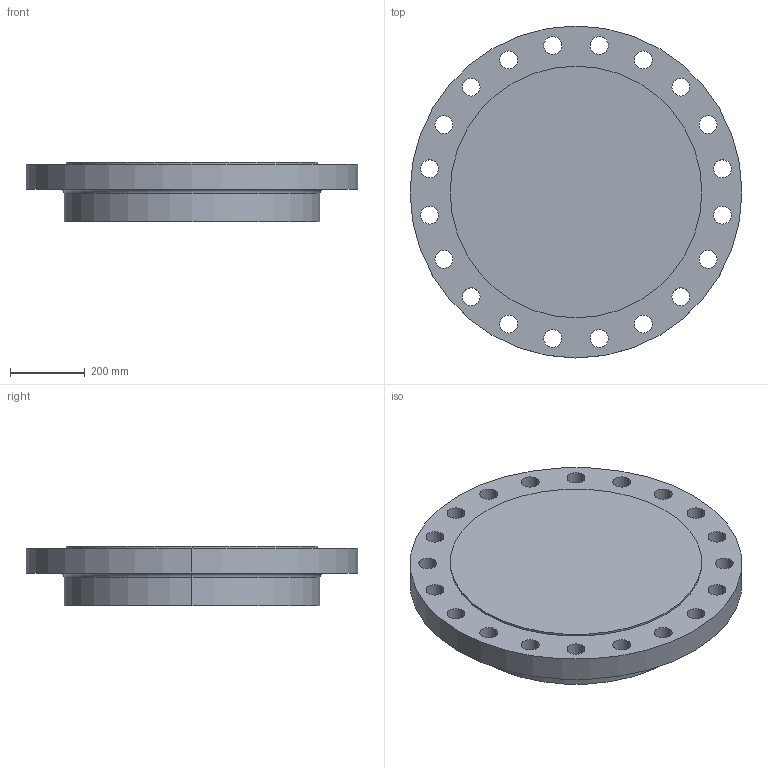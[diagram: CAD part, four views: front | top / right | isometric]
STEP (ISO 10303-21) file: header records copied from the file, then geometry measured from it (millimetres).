
FILE_DESCRIPTION (( 'STEP AP214' ), '1' );
FILE_NAME ('PN40 DN600 Type 21(i) - Type E Face.STEP', '2018-12-29T04:40:18', ( '' ), ( '' ), 'SwSTEP 2.0', 'SolidWorks 2019', '' );
FILE_SCHEMA (( 'AUTOMOTIVE_DESIGN' ));
Length unit declared in the file: millimetre
Products named in the file (1): PN40 DN600 Type 21(i) - Type E Face
Bounding box: 890 x 890 x 160 mm (x, y, z)
Volume: 73524401.2 mm3; surface area: 1748618.9 mm2
Topology: 1 solids, 1 shells, 52 faces, 142 edges, 94 vertices
Faces by surface type: cylinder 46, plane 4, torus 2
Entity records: 1820 total; most frequent: DIRECTION 344, CARTESIAN_POINT 289, ORIENTED_EDGE 284, AXIS2_PLACEMENT_3D 149, EDGE_CURVE 142, CIRCLE 96, VERTEX_POINT 94, EDGE_LOOP 94
